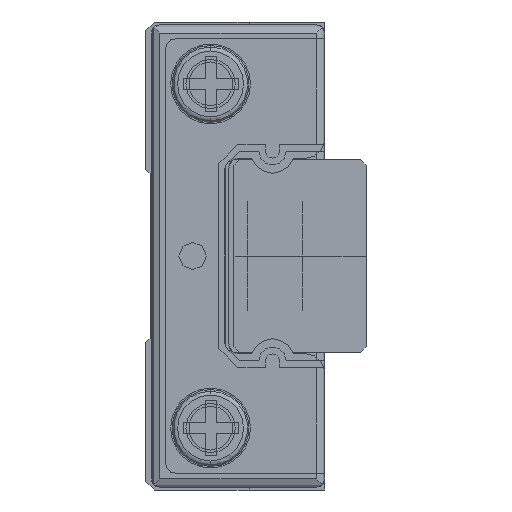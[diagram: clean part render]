
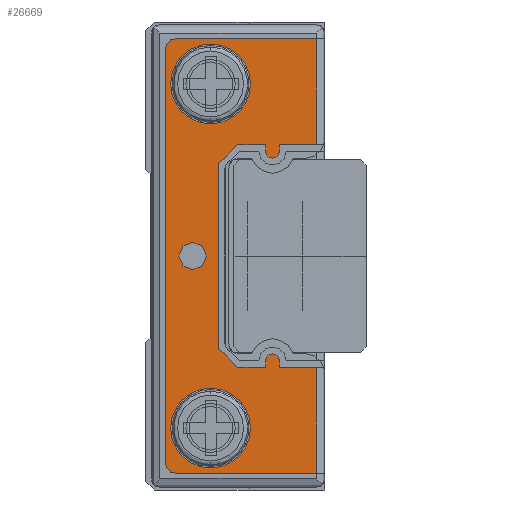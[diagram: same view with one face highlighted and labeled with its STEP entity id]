
A CAD part, left-side view. The second image highlights one B-rep face of the part: STEP entity #26669.
In plain terms, the highlighted planar face has unit normal (-1, 0, 0) as drawn and (0, 0, 1) by its records, which use the part's own axes.
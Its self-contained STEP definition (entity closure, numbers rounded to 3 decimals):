
#16394=DIRECTION('',(1.,0.,0.));
#16395=VECTOR('',#16394,3.849);
#16396=CARTESIAN_POINT('',(-7.899,-6.2,11.75));
#16397=LINE('',#16396,#16395);
#16403=DIRECTION('',(0.,-1.,0.));
#16404=VECTOR('',#16403,5.089);
#16405=CARTESIAN_POINT('',(-7.899,-1.111,11.75));
#16406=LINE('',#16405,#16404);
#18306=DIRECTION('',(0.,1.,0.));
#18307=VECTOR('',#18306,5.089);
#18308=CARTESIAN_POINT('',(7.899,-6.2,11.75));
#18309=LINE('',#18308,#18307);
#18314=DIRECTION('',(1.,0.,0.));
#18315=VECTOR('',#18314,3.849);
#18316=CARTESIAN_POINT('',(4.05,-6.2,11.75));
#18317=LINE('',#18316,#18315);
#18322=DIRECTION('',(0.,-1.,0.));
#18323=VECTOR('',#18322,1.35);
#18324=CARTESIAN_POINT('',(-4.05,-4.85,11.75));
#18325=LINE('',#18324,#18323);
#18326=CARTESIAN_POINT('',(-7.489,-1.111,11.75));
#18327=DIRECTION('',(0.,0.,-1.));
#18328=DIRECTION('',(-1.,0.,0.));
#18329=AXIS2_PLACEMENT_3D('',#18326,#18327,#18328);
#18331=CARTESIAN_POINT('',(7.489,-1.111,11.75));
#18332=DIRECTION('',(0.,0.,-1.));
#18333=DIRECTION('',(0.,1.,0.));
#18334=AXIS2_PLACEMENT_3D('',#18331,#18332,#18333);
#18336=DIRECTION('',(0.,1.,0.));
#18337=VECTOR('',#18336,1.35);
#18338=CARTESIAN_POINT('',(4.05,-6.2,11.75));
#18339=LINE('',#18338,#18337);
#18340=DIRECTION('',(-1.,0.,0.));
#18341=VECTOR('',#18340,0.25);
#18342=CARTESIAN_POINT('',(4.05,-4.85,11.75));
#18343=LINE('',#18342,#18341);
#18344=CARTESIAN_POINT('',(3.8,-4.6,11.75));
#18345=DIRECTION('',(0.,0.,-1.));
#18346=DIRECTION('',(0.,-1.,0.));
#18347=AXIS2_PLACEMENT_3D('',#18344,#18345,#18346);
#18349=CARTESIAN_POINT('',(3.8,-4.6,11.75));
#18350=DIRECTION('',(0.,0.,-1.));
#18351=DIRECTION('',(-1.,0.,0.));
#18352=AXIS2_PLACEMENT_3D('',#18349,#18350,#18351);
#18354=DIRECTION('',(1.,0.,0.));
#18355=VECTOR('',#18354,0.25);
#18356=CARTESIAN_POINT('',(3.8,-4.35,11.75));
#18357=LINE('',#18356,#18355);
#18358=DIRECTION('',(0.,1.,0.));
#18359=VECTOR('',#18358,1.014);
#18360=CARTESIAN_POINT('',(4.05,-4.35,11.75));
#18361=LINE('',#18360,#18359);
#18362=DIRECTION('',(-0.707,0.707,0.));
#18363=VECTOR('',#18362,0.972);
#18364=CARTESIAN_POINT('',(4.05,-3.336,11.75));
#18365=LINE('',#18364,#18363);
#18366=DIRECTION('',(-1.,0.,0.));
#18367=VECTOR('',#18366,6.726);
#18368=CARTESIAN_POINT('',(3.363,-2.649,11.75));
#18369=LINE('',#18368,#18367);
#18370=DIRECTION('',(-0.707,-0.707,0.));
#18371=VECTOR('',#18370,0.972);
#18372=CARTESIAN_POINT('',(-3.363,-2.649,11.75));
#18373=LINE('',#18372,#18371);
#18374=DIRECTION('',(0.,-1.,0.));
#18375=VECTOR('',#18374,1.014);
#18376=CARTESIAN_POINT('',(-4.05,-3.336,11.75));
#18377=LINE('',#18376,#18375);
#18378=DIRECTION('',(1.,0.,0.));
#18379=VECTOR('',#18378,0.25);
#18380=CARTESIAN_POINT('',(-4.05,-4.35,11.75));
#18381=LINE('',#18380,#18379);
#18382=CARTESIAN_POINT('',(-3.8,-4.6,11.75));
#18383=DIRECTION('',(0.,0.,-1.));
#18384=DIRECTION('',(0.,1.,0.));
#18385=AXIS2_PLACEMENT_3D('',#18382,#18383,#18384);
#18387=CARTESIAN_POINT('',(-3.8,-4.6,11.75));
#18388=DIRECTION('',(0.,0.,-1.));
#18389=DIRECTION('',(1.,0.,0.));
#18390=AXIS2_PLACEMENT_3D('',#18387,#18388,#18389);
#18392=DIRECTION('',(-1.,0.,0.));
#18393=VECTOR('',#18392,0.25);
#18394=CARTESIAN_POINT('',(-3.8,-4.85,11.75));
#18395=LINE('',#18394,#18393);
#18396=CARTESIAN_POINT('',(6.25,-2.35,11.75));
#18397=DIRECTION('',(0.,0.,1.));
#18398=DIRECTION('',(-1.,0.,0.));
#18399=AXIS2_PLACEMENT_3D('',#18396,#18397,#18398);
#18401=CARTESIAN_POINT('',(6.25,-2.35,11.75));
#18402=DIRECTION('',(0.,0.,1.));
#18403=DIRECTION('',(1.,0.,0.));
#18404=AXIS2_PLACEMENT_3D('',#18401,#18402,#18403);
#18406=CARTESIAN_POINT('',(-6.25,-2.35,11.75));
#18407=DIRECTION('',(0.,0.,1.));
#18408=DIRECTION('',(-1.,0.,0.));
#18409=AXIS2_PLACEMENT_3D('',#18406,#18407,#18408);
#18411=CARTESIAN_POINT('',(-6.25,-2.35,11.75));
#18412=DIRECTION('',(0.,0.,1.));
#18413=DIRECTION('',(1.,0.,0.));
#18414=AXIS2_PLACEMENT_3D('',#18411,#18412,#18413);
#18416=CARTESIAN_POINT('',(0.,-1.7,11.75));
#18417=DIRECTION('',(0.,0.,1.));
#18418=DIRECTION('',(-1.,0.,0.));
#18419=AXIS2_PLACEMENT_3D('',#18416,#18417,#18418);
#18421=CARTESIAN_POINT('',(0.,-1.7,11.75));
#18422=DIRECTION('',(0.,0.,1.));
#18423=DIRECTION('',(1.,0.,0.));
#18424=AXIS2_PLACEMENT_3D('',#18421,#18422,#18423);
#18510=DIRECTION('',(-1.,0.,0.));
#18511=VECTOR('',#18510,14.978);
#18512=CARTESIAN_POINT('',(7.489,-0.701,11.75));
#18513=LINE('',#18512,#18511);
#21811=CARTESIAN_POINT('',(-4.05,-6.2,11.75));
#21812=VERTEX_POINT('',#21811);
#21813=CARTESIAN_POINT('',(-4.05,-4.85,11.75));
#21814=VERTEX_POINT('',#21813);
#21817=CARTESIAN_POINT('',(-7.899,-6.2,11.75));
#21818=VERTEX_POINT('',#21817);
#21821=CARTESIAN_POINT('',(-7.899,-1.111,11.75));
#21822=VERTEX_POINT('',#21821);
#22311=CARTESIAN_POINT('',(7.489,-0.701,11.75));
#22312=CARTESIAN_POINT('',(7.899,-1.111,11.75));
#22313=VERTEX_POINT('',#22311);
#22314=VERTEX_POINT('',#22312);
#22315=CARTESIAN_POINT('',(-7.489,-0.701,11.75));
#22316=VERTEX_POINT('',#22315);
#22317=CARTESIAN_POINT('',(7.899,-6.2,11.75));
#22318=VERTEX_POINT('',#22317);
#22319=CARTESIAN_POINT('',(4.05,-6.2,11.75));
#22320=VERTEX_POINT('',#22319);
#22321=CARTESIAN_POINT('',(4.05,-4.85,11.75));
#22322=VERTEX_POINT('',#22321);
#22323=CARTESIAN_POINT('',(3.8,-4.85,11.75));
#22324=VERTEX_POINT('',#22323);
#22325=CARTESIAN_POINT('',(3.55,-4.6,11.75));
#22326=VERTEX_POINT('',#22325);
#22327=CARTESIAN_POINT('',(3.8,-4.35,11.75));
#22328=VERTEX_POINT('',#22327);
#22329=CARTESIAN_POINT('',(4.05,-4.35,11.75));
#22330=VERTEX_POINT('',#22329);
#22331=CARTESIAN_POINT('',(4.05,-3.336,11.75));
#22332=VERTEX_POINT('',#22331);
#22333=CARTESIAN_POINT('',(3.363,-2.649,11.75));
#22334=VERTEX_POINT('',#22333);
#22335=CARTESIAN_POINT('',(-3.363,-2.649,11.75));
#22336=VERTEX_POINT('',#22335);
#22337=CARTESIAN_POINT('',(-4.05,-3.336,11.75));
#22338=VERTEX_POINT('',#22337);
#22339=CARTESIAN_POINT('',(-4.05,-4.35,11.75));
#22340=VERTEX_POINT('',#22339);
#22341=CARTESIAN_POINT('',(-3.8,-4.35,11.75));
#22342=VERTEX_POINT('',#22341);
#22343=CARTESIAN_POINT('',(-3.55,-4.6,11.75));
#22344=CARTESIAN_POINT('',(-3.8,-4.85,11.75));
#22345=VERTEX_POINT('',#22343);
#22346=VERTEX_POINT('',#22344);
#22347=CARTESIAN_POINT('',(4.8,-2.35,11.75));
#22348=CARTESIAN_POINT('',(7.7,-2.35,11.75));
#22349=VERTEX_POINT('',#22347);
#22350=VERTEX_POINT('',#22348);
#22351=CARTESIAN_POINT('',(-7.7,-2.35,11.75));
#22352=CARTESIAN_POINT('',(-4.8,-2.35,11.75));
#22353=VERTEX_POINT('',#22351);
#22354=VERTEX_POINT('',#22352);
#22355=CARTESIAN_POINT('',(-0.5,-1.7,11.75));
#22356=CARTESIAN_POINT('',(0.5,-1.7,11.75));
#22357=VERTEX_POINT('',#22355);
#22358=VERTEX_POINT('',#22356);
#26605=CARTESIAN_POINT('',(-7.489,-1.111,11.75));
#26606=DIRECTION('',(0.,0.,1.));
#26607=DIRECTION('',(1.,0.,0.));
#26608=AXIS2_PLACEMENT_3D('',#26605,#26606,#26607);
#26609=PLANE('',#26608);
#26610=ORIENTED_EDGE('',*,*,#24724,.T.);
#26611=ORIENTED_EDGE('',*,*,#24741,.F.);
#26612=ORIENTED_EDGE('',*,*,#24758,.F.);
#26614=ORIENTED_EDGE('',*,*,#26613,.T.);
#26616=ORIENTED_EDGE('',*,*,#26615,.F.);
#26618=ORIENTED_EDGE('',*,*,#26617,.T.);
#26619=ORIENTED_EDGE('',*,*,#26582,.F.);
#26620=ORIENTED_EDGE('',*,*,#26596,.F.);
#26622=ORIENTED_EDGE('',*,*,#26621,.T.);
#26624=ORIENTED_EDGE('',*,*,#26623,.T.);
#26626=ORIENTED_EDGE('',*,*,#26625,.T.);
#26628=ORIENTED_EDGE('',*,*,#26627,.T.);
#26630=ORIENTED_EDGE('',*,*,#26629,.T.);
#26632=ORIENTED_EDGE('',*,*,#26631,.T.);
#26634=ORIENTED_EDGE('',*,*,#26633,.T.);
#26636=ORIENTED_EDGE('',*,*,#26635,.T.);
#26638=ORIENTED_EDGE('',*,*,#26637,.T.);
#26640=ORIENTED_EDGE('',*,*,#26639,.T.);
#26642=ORIENTED_EDGE('',*,*,#26641,.T.);
#26644=ORIENTED_EDGE('',*,*,#26643,.T.);
#26646=ORIENTED_EDGE('',*,*,#26645,.T.);
#26648=ORIENTED_EDGE('',*,*,#26647,.T.);
#26649=EDGE_LOOP('',(#26610,#26611,#26612,#26614,#26616,#26618,#26619,#26620,
#26622,#26624,#26626,#26628,#26630,#26632,#26634,#26636,#26638,#26640,#26642,
#26644,#26646,#26648));
#26650=FACE_OUTER_BOUND('',#26649,.F.);
#26652=ORIENTED_EDGE('',*,*,#26651,.T.);
#26654=ORIENTED_EDGE('',*,*,#26653,.T.);
#26655=EDGE_LOOP('',(#26652,#26654));
#26656=FACE_BOUND('',#26655,.F.);
#26658=ORIENTED_EDGE('',*,*,#26657,.T.);
#26660=ORIENTED_EDGE('',*,*,#26659,.T.);
#26661=EDGE_LOOP('',(#26658,#26660));
#26662=FACE_BOUND('',#26661,.F.);
#26664=ORIENTED_EDGE('',*,*,#26663,.T.);
#26666=ORIENTED_EDGE('',*,*,#26665,.T.);
#26667=EDGE_LOOP('',(#26664,#26666));
#26668=FACE_BOUND('',#26667,.F.);
#26669=ADVANCED_FACE('',(#26650,#26656,#26662,#26668),#26609,.T.);
#18330=CIRCLE('',#18329,0.41);
#18335=CIRCLE('',#18334,0.41);
#18348=CIRCLE('',#18347,0.25);
#18353=CIRCLE('',#18352,0.25);
#18386=CIRCLE('',#18385,0.25);
#18391=CIRCLE('',#18390,0.25);
#18400=CIRCLE('',#18399,1.45);
#18405=CIRCLE('',#18404,1.45);
#18410=CIRCLE('',#18409,1.45);
#18415=CIRCLE('',#18414,1.45);
#18420=CIRCLE('',#18419,0.5);
#18425=CIRCLE('',#18424,0.5);
#24724=EDGE_CURVE('',#21814,#21812,#18325,.T.);
#24741=EDGE_CURVE('',#21818,#21812,#16397,.T.);
#24758=EDGE_CURVE('',#21822,#21818,#16406,.T.);
#26582=EDGE_CURVE('',#22318,#22314,#18309,.T.);
#26596=EDGE_CURVE('',#22320,#22318,#18317,.T.);
#26613=EDGE_CURVE('',#21822,#22316,#18330,.T.);
#26615=EDGE_CURVE('',#22313,#22316,#18513,.T.);
#26617=EDGE_CURVE('',#22313,#22314,#18335,.T.);
#26621=EDGE_CURVE('',#22320,#22322,#18339,.T.);
#26623=EDGE_CURVE('',#22322,#22324,#18343,.T.);
#26625=EDGE_CURVE('',#22324,#22326,#18348,.T.);
#26627=EDGE_CURVE('',#22326,#22328,#18353,.T.);
#26629=EDGE_CURVE('',#22328,#22330,#18357,.T.);
#26631=EDGE_CURVE('',#22330,#22332,#18361,.T.);
#26633=EDGE_CURVE('',#22332,#22334,#18365,.T.);
#26635=EDGE_CURVE('',#22334,#22336,#18369,.T.);
#26637=EDGE_CURVE('',#22336,#22338,#18373,.T.);
#26639=EDGE_CURVE('',#22338,#22340,#18377,.T.);
#26641=EDGE_CURVE('',#22340,#22342,#18381,.T.);
#26643=EDGE_CURVE('',#22342,#22345,#18386,.T.);
#26645=EDGE_CURVE('',#22345,#22346,#18391,.T.);
#26647=EDGE_CURVE('',#22346,#21814,#18395,.T.);
#26651=EDGE_CURVE('',#22349,#22350,#18400,.T.);
#26653=EDGE_CURVE('',#22350,#22349,#18405,.T.);
#26657=EDGE_CURVE('',#22353,#22354,#18410,.T.);
#26659=EDGE_CURVE('',#22354,#22353,#18415,.T.);
#26663=EDGE_CURVE('',#22357,#22358,#18420,.T.);
#26665=EDGE_CURVE('',#22358,#22357,#18425,.T.);
